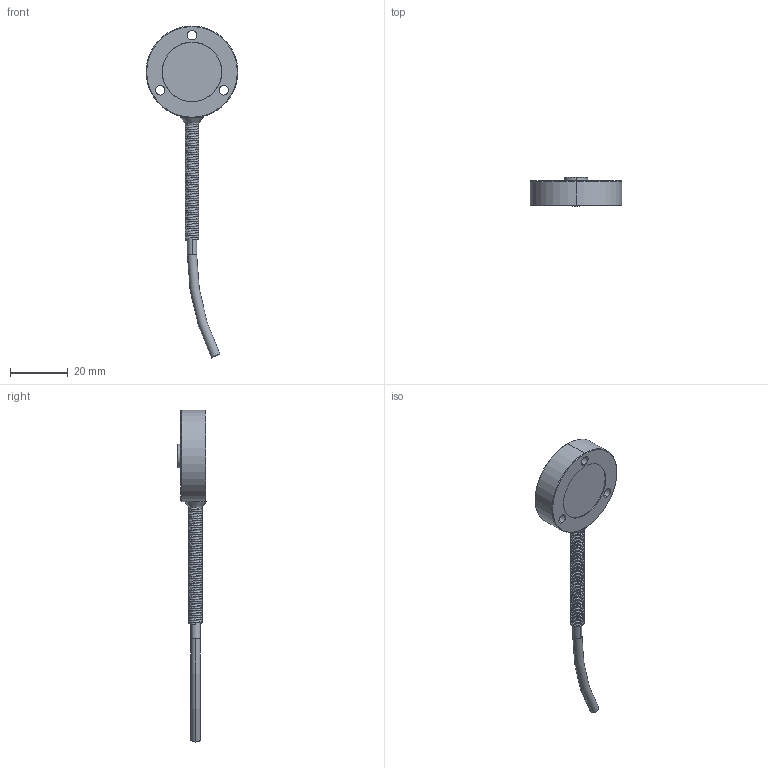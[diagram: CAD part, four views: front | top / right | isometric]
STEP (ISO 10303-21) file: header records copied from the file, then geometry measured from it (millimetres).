
FILE_DESCRIPTION (( 'STEP AP214' ), '1' );
FILE_NAME ('ALBM-2M-MC.STEP', '2021-04-27T07:22:32', ( '' ), ( '' ), 'SwSTEP 2.0', 'SolidWorks 2011', '' );
FILE_SCHEMA (( 'AUTOMOTIVE_DESIGN' ));
Length unit declared in the file: millimetre
Products named in the file (18): MWHML42AWG; PCB-A006012; ALBM-2M-MC; CAB-A005485; STR-A005892; MMACH-A005542; RES-A006753; CONS000934; CONS003738; HS001889; MMACH-A005836; CAB-A005926; SPR-A005545; RES003669; CONS000933; CAB002016; CONS003645; Copy of Copy of 3.2mm^ALBM-2M-MC
Assembly tree (4 placements, depth 2):
  MWHML42AWG
  PCB-A006012
  ALBM-2M-MC
    Copy of Copy of 3.2mm^ALBM-2M-MC
    SPR-A005545
    MMACH-A005836
    MMACH-A005542
  CAB-A005485
  STR-A005892
Bounding box: 31.75 x 10.17 x 114.8 mm (x, y, z)
Volume: 7299.6 mm3; surface area: 6210.3 mm2
Topology: 4 solids, 4 shells, 51 faces, 112 edges, 73 vertices
Faces by surface type: cylinder 22, plane 12, torus 6, cone 5, bspline 4, sphere 2
Entity records: 17360 total; most frequent: CARTESIAN_POINT 15758, DIRECTION 278, ORIENTED_EDGE 224, AXIS2_PLACEMENT_3D 125, EDGE_CURVE 112, VERTEX_POINT 73, CIRCLE 71, EDGE_LOOP 61
